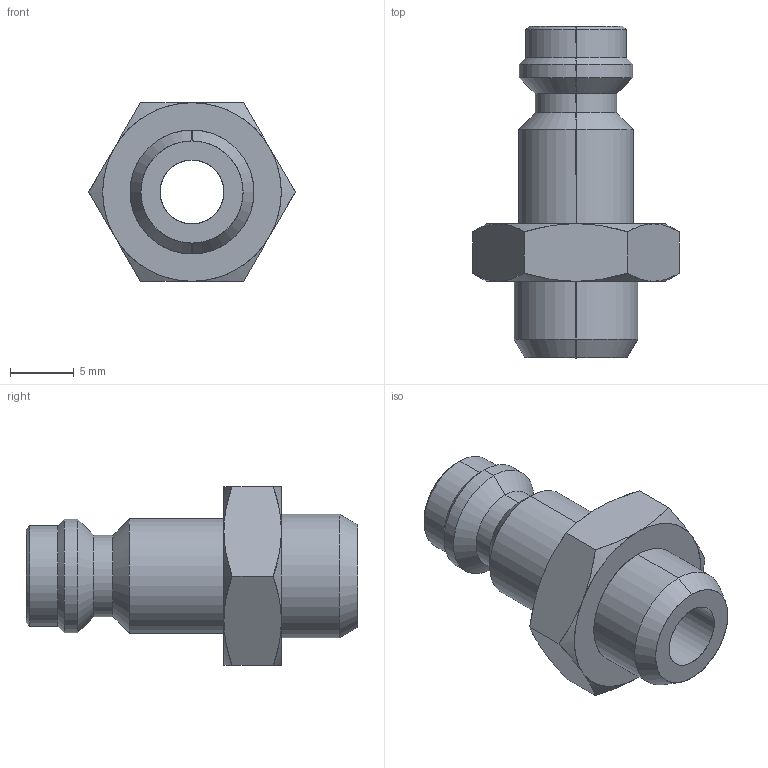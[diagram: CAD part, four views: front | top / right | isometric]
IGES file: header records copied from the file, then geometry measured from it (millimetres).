
Start section: SolidWorks IGES file using analytic representation for surfaces
Global section: file name: K:\Disegni Esecutivi\Serie 100-200\ASSIEMI\211\0021100010200A.IGS; native system: SolidWorks 2008; preprocessor: SolidWorks 2008; author: cad05; date: 090304.100812; units: millimetre
Bounding box: 16.17 x 26 x 14 mm (x, y, z)
Surface area: 1489.9 mm2 (no closed solid volume)
Topology: 0 solids, 0 shells, 44 faces, 568 edges, 568 vertices
Faces by surface type: revolution 34, bspline 10
